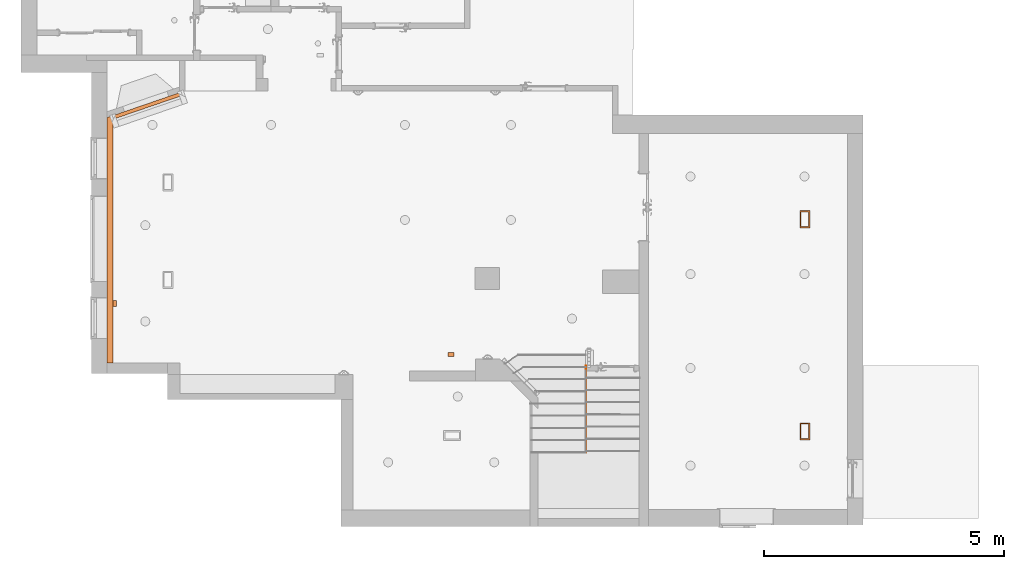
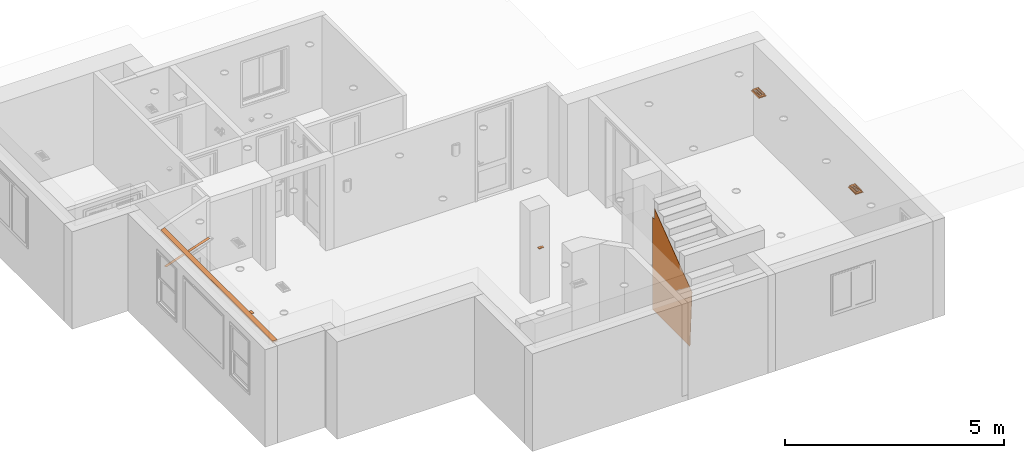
# One storey, part 20 of 24: 7 proxies.
"""IFC2X3 building model written with IfcOpenShell, lengths in inches."""

from ifc_helpers import new_model, entity, si_unit, converted_unit, derived_unit, money_unit, direction, frame, origin_with_axes, place, context, subcontext, project, spatial, open_shell, faceted_brep, surface_model, source, transform, mapped, material, type_object, element, save


model = new_model("IFC2X3")

# Units and contexts
model_context = context("Model", 3, precision=0.000393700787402, world=origin_with_axes(), true_north=direction((0.0, 1.0)))
body_context = subcontext(model_context, "Body", "Model", "MODEL_VIEW")
ifc_project = project(units=[converted_unit("LENGTHUNIT", "INCH", entity("IfcPositiveLengthMeasure", 0.0254), si_unit("LENGTHUNIT", "METRE"), dimensions=[1, 0, 0, 0, 0, 0, 0]), converted_unit("AREAUNIT", "SQUARE_FOOT", entity("IfcPositiveLengthMeasure", 0.09290304), si_unit("AREAUNIT", "SQUARE_METRE"), dimensions=[2, 0, 0, 0, 0, 0, 0]), si_unit("PLANEANGLEUNIT", "RADIAN"), si_unit("SOLIDANGLEUNIT", "STERADIAN"), money_unit("USD"), converted_unit("TIMEUNIT", "Year", entity("IfcTimeMeasure", 31556926.0), si_unit("TIMEUNIT", "SECOND"), dimensions=[0, 0, 1, 0, 0, 0, 0]), si_unit("MASSUNIT", "GRAM", prefix="KILO"), si_unit("THERMODYNAMICTEMPERATUREUNIT", "DEGREE_CELSIUS"), si_unit("LUMINOUSINTENSITYUNIT", "LUMEN"), si_unit("ENERGYUNIT", "JOULE", prefix="MEGA"), derived_unit("THERMALCONDUCTANCEUNIT", [(si_unit("POWERUNIT", "WATT"), 1), (si_unit("LENGTHUNIT", "METRE"), -1), (si_unit("THERMODYNAMICTEMPERATUREUNIT", "KELVIN"), -1)]), derived_unit("SPECIFICHEATCAPACITYUNIT", [(si_unit("ENERGYUNIT", "JOULE"), 1), (si_unit("MASSUNIT", "GRAM", prefix="KILO"), -1), (si_unit("THERMODYNAMICTEMPERATUREUNIT", "KELVIN"), -1)]), derived_unit("MASSDENSITYUNIT", [(si_unit("MASSUNIT", "GRAM", prefix="KILO"), 1), (si_unit("VOLUMEUNIT", "CUBIC_METRE"), -1)])], contexts=[model_context])

# Site, building, storey
site_placement = place(None, origin_with_axes())
site = spatial("IfcSite", under=ifc_project, at=site_placement, Name="Site", CompositionType="ELEMENT")
building_placement = place(site_placement, origin_with_axes())
building = spatial("IfcBuilding", under=site, at=building_placement, Name="Building", CompositionType="ELEMENT")
storey_placement = place(building_placement, origin_with_axes())
storey = spatial("IfcBuildingStorey", under=building, at=storey_placement, Name="First Floor", CompositionType="ELEMENT", Elevation=0.0)

# Proxies
ifc_material = material(Name="Generic - Structural")
building_element_proxy_type_1 = type_object("IfcBuildingElementProxyType", Name="Generic - Structural", PredefinedType="NOTDEFINED")
proxy_1_placement = place(storey_placement, frame((1770.10348178, 155.657628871, 100.787401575), z_axis=(0.0, 0.0, 1.0), x_axis=(1.0, 0.0, 0.0)))
element("IfcBuildingElementProxy", 1, at=proxy_1_placement, inside=storey, type_object=building_element_proxy_type_1, material=ifc_material, Name="MORPH-014", context=body_context, shape_type="Brep", body=[
    faceted_brep([(-1199.91552303, -0.0468543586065, 0.25), (-1199.91552303, -3.0, 0.25), (-1195.0, -3.0, 0.25), (-1195.0, -0.0468543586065, 0.25), (-1199.91552303, -0.0468543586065, 0.0), (-1199.91552303, -3.0, 0.0), (-1195.0, -3.0, 0.0), (-1195.0, -0.0468543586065, 0.0)], [[[0, 1, 2, 3]], [[1, 0, 4]], [[1, 5, 6, 2]], [[2, 6, 7, 3]], [[0, 3, 7]], [[7, 4, 0]], [[4, 5, 1]], [[5, 4, 7, 6]]]),
])
proxy_2_placement = place(storey_placement, frame((683.424629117, 144.90717231, 101.0), z_axis=(0.0, 0.0, 1.0), x_axis=(1.0, 0.0, 0.0)))
element("IfcBuildingElementProxy", 2, at=proxy_2_placement, inside=storey, type_object=building_element_proxy_type_1, material=ifc_material, Name="MO-11", context=body_context, shape_type="Brep", body=[
    faceted_brep([(-0.321336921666, -67.4641869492, -101.0), (-0.321336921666, -71.2466272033, -39.1434267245), (-0.321336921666, -3.99954874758, 11.7410656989), (-0.321336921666, -3.99954874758, 0.0), (-0.321336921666, 0.0, 0.0), (-0.321336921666, 0.0, -101.0), (0.0, -67.4641869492, -101.0), (-0.135171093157, -71.2466272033, -39.1434267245), (0.0, -71.2466272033, -39.1434267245), (-0.135171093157, -3.99954874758, 11.7410656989), (0.0555155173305, -3.99954874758, 11.7410656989), (0.0555155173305, -3.99954874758, 0.0), (0.0555155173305, 0.0, 0.0), (0.0555155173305, 0.0, -101.0), (0.0555155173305, -67.4641869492, -101.0), (0.0555155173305, -71.2466272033, -39.1434267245)], [[[0, 1, 2, 3, 4, 5]], [[1, 0, 6, 7]], [[2, 1, 7, 8, 9]], [[3, 2, 9, 10, 11]], [[4, 3, 11, 12]], [[5, 4, 12, 13]], [[0, 5, 13, 14, 6]], [[7, 6, 14, 15, 8]], [[9, 8, 15, 10]], [[15, 14, 13, 12, 11, 10]]]),
])
proxy_3_placement = place(storey_placement, frame((1498.43375014, 198.674473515, 100.787401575), z_axis=(0.0, 0.0, 1.0), x_axis=(0.0, -1.0, 0.0)))
element("IfcBuildingElementProxy", 3, at=proxy_3_placement, inside=storey, type_object=building_element_proxy_type_1, material=ifc_material, Name="MORPH-014", context=body_context, shape_type="Brep", body=[
    faceted_brep([(0.0657898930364, -1200.04662833, 0.25), (0.0657898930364, -1203.0, 0.25), (5.0, -1203.0, 0.25), (5.0, -1200.04662833, 0.25), (0.0657898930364, -1203.0, 0.0), (5.0, -1203.0, 0.0), (5.0, -1200.04662833, 0.0), (0.0657898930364, -1200.04662833, 0.0)], [[[0, 1, 2, 3]], [[4, 1, 0]], [[1, 4, 5, 2]], [[2, 5, 6, 3]], [[7, 0, 3]], [[7, 4, 0]], [[4, 7, 6, 5]], [[6, 7, 3]]]),
])
proxy_4_placement = place(storey_placement, frame((290.431237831, 147.406704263, 101.0), z_axis=(0.0, 0.0, 1.0), x_axis=(1.0, 0.0, 0.0)))
element("IfcBuildingElementProxy", 4, at=proxy_4_placement, inside=storey, type_object=building_element_proxy_type_1, material=ifc_material, Name="MO-01", context=body_context, shape_type="Brep", body=[
    faceted_brep([(6.7459856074e-06, -0.244277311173, 0.0), (0.00251262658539, 200.999120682, 0.0), (0.00251262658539, 200.999120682, -1.96898590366), (6.7459856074e-06, -0.244277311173, -1.96898590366), (5.00251220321, -0.244285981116, 0.0), (5.00251262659, 202.718736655, 0.0), (5.00251262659, 202.718736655, -1.96898590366), (5.00251220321, -0.244285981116, -1.96898590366)], [[[0, 1, 2, 3]], [[1, 0, 4, 5]], [[2, 1, 5, 6]], [[3, 2, 6, 7]], [[0, 3, 7]], [[4, 0, 7]], [[5, 4, 7, 6]]]),
])
proxy_5_placement = place(storey_placement, frame((1495.80662403, 347.16476816, 59.0000238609), z_axis=(0.0, 0.0, 1.0), x_axis=(1.0, 0.0, 0.0)))
element("IfcBuildingElementProxy", 5, at=proxy_5_placement, inside=storey, type_object=building_element_proxy_type_1, material=ifc_material, Name="MO-09", context=body_context, shape_type="SurfaceModel", body=[
    surface_model("IfcShellBasedSurfaceModel", [(-1200.0, 0.0, 0.0), (-1200.9590181, 2.74044014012, 0.0), (-1144.3510424, 22.1994571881, 0.0), (-1143.38299368, 19.4348917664, 0.0)], [open_shell([[[0, 1, 2, 3]]])]),
])
building_element_proxy_type_2 = type_object("IfcBuildingElementProxyType", Name="Ceiling Grille 25", PredefinedType="NOTDEFINED")
shared_shape = source(origin_with_axes(), body_context, "Body", "SurfaceModel", [
    faceted_brep([(6.98818897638, 4.03543307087, -0.196850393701), (-6.98818897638, 4.03543307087, -0.196850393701), (-6.98818897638, 4.03543307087, 0.0), (6.98818897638, 4.03543307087, 0.0), (6.98818897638, -4.03543307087, -0.196850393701), (-6.98818897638, -4.03543307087, -0.196850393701), (6.00393700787, 3.05118110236, -0.196850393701), (-6.00393700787, 3.05118110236, -0.196850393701), (-6.00393700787, -3.05118110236, -0.196850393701), (6.00393700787, -3.05118110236, -0.196850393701), (-6.98818897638, -4.03543307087, 0.0), (6.98818897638, -4.03543307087, 0.0), (6.00393700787, 3.05118110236, 0.0), (6.00393700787, -3.05118110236, 0.0), (-6.00393700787, -3.05118110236, 0.0), (-6.00393700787, 3.05118110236, 0.0)], [[[0, 1, 2, 3]], [[0, 4, 5, 1], [6, 7, 8, 9]], [[1, 5, 10, 2]], [[3, 2, 10, 11], [12, 13, 14, 15]], [[4, 0, 3, 11]], [[5, 4, 11, 10]], [[7, 6, 12, 15]], [[8, 7, 15, 14]], [[9, 8, 14, 13]], [[6, 9, 13, 12]]]),
    surface_model("IfcShellBasedSurfaceModel", [(-5.96456692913, 2.95275590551, -0.196850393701), (5.96456692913, 2.95275590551, -0.196850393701), (5.96456692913, 2.95275590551, 0.787401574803), (-5.96456692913, 2.95275590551, 0.787401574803)], [open_shell([[[0, 1, 2, 3]]])]),
    surface_model("IfcShellBasedSurfaceModel", [(-5.96456692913, 0.984251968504, -0.196850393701), (5.96456692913, 0.984251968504, -0.196850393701), (5.96456692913, 0.984251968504, 0.787401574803), (-5.96456692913, 0.984251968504, 0.787401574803)], [open_shell([[[0, 1, 2, 3]]])]),
    surface_model("IfcShellBasedSurfaceModel", [(-5.96456692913, -0.984251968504, -0.196850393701), (5.96456692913, -0.984251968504, -0.196850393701), (5.96456692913, -0.984251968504, 0.787401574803), (-5.96456692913, -0.984251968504, 0.787401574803)], [open_shell([[[0, 1, 2, 3]]])]),
    surface_model("IfcShellBasedSurfaceModel", [(-5.96456692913, -2.95275590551, -0.196850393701), (5.96456692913, -2.95275590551, -0.196850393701), (5.96456692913, -2.95275590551, 0.787401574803), (-5.96456692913, -2.95275590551, 0.787401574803)], [open_shell([[[0, 1, 2, 3]]])]),
    surface_model("IfcShellBasedSurfaceModel", [(5.90551181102, -3.01181102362, -0.196850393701), (5.90551181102, 3.01181102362, -0.196850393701), (5.90551181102, 3.01181102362, 0.787401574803), (5.90551181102, -3.01181102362, 0.787401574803)], [open_shell([[[0, 1, 2, 3]]])]),
    surface_model("IfcShellBasedSurfaceModel", [(3.93700787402, -3.01181102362, -0.196850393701), (3.93700787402, 3.01181102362, -0.196850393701), (3.93700787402, 3.01181102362, 0.787401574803), (3.93700787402, -3.01181102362, 0.787401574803)], [open_shell([[[0, 1, 2, 3]]])]),
    surface_model("IfcShellBasedSurfaceModel", [(1.96850393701, -3.01181102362, -0.196850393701), (1.96850393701, 3.01181102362, -0.196850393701), (1.96850393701, 3.01181102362, 0.787401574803), (1.96850393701, -3.01181102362, 0.787401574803)], [open_shell([[[0, 1, 2, 3]]])]),
    surface_model("IfcShellBasedSurfaceModel", [(0.0, -3.01181102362, -0.196850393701), (0.0, 3.01181102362, -0.196850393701), (0.0, 3.01181102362, 0.787401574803), (0.0, -3.01181102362, 0.787401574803)], [open_shell([[[0, 1, 2, 3]]])]),
    surface_model("IfcShellBasedSurfaceModel", [(-1.96850393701, -3.01181102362, -0.196850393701), (-1.96850393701, 3.01181102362, -0.196850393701), (-1.96850393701, 3.01181102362, 0.787401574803), (-1.96850393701, -3.01181102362, 0.787401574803)], [open_shell([[[0, 1, 2, 3]]])]),
    surface_model("IfcShellBasedSurfaceModel", [(-3.93700787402, -3.01181102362, -0.196850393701), (-3.93700787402, 3.01181102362, -0.196850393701), (-3.93700787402, 3.01181102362, 0.787401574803), (-3.93700787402, -3.01181102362, 0.787401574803)], [open_shell([[[0, 1, 2, 3]]])]),
    surface_model("IfcShellBasedSurfaceModel", [(-5.90551181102, -3.01181102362, -0.196850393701), (-5.90551181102, 3.01181102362, -0.196850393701), (-5.90551181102, 3.01181102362, 0.787401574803), (-5.90551181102, -3.01181102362, 0.787401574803)], [open_shell([[[0, 1, 2, 3]]])]),
    surface_model("IfcShellBasedSurfaceModel", [(6.00393700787, -3.05118110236, 0.0), (6.00393700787, 3.05118110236, 0.0), (6.00393700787, 3.05118110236, 1.96850393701), (6.00393700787, -3.05118110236, 1.96850393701), (-6.00393700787, 3.05118110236, 0.0), (-6.00393700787, 3.05118110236, 1.96850393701), (-6.00393700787, -3.05118110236, 0.0), (-6.00393700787, -3.05118110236, 1.96850393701)], [open_shell([[[0, 1, 2, 3]], [[1, 4, 5, 2]], [[6, 0, 3, 7]], [[4, 6, 7, 5]]])]),
])
for number, where, z_axis, x_axis, name in (
    (6, (862.965549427, 265.049467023, 101.0), (0.0, 0.0, 1.0), (0.0, 1.0, 0.0), "FU - 013"),
    (7, (862.965549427, 91.0022229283, 101.0), (0.0, 0.0, 1.0), (0.0, 1.0, 0.0), "FU - 013"),
):
    element("IfcBuildingElementProxy", number, at=place(storey_placement, frame(where, z_axis=z_axis, x_axis=x_axis)), inside=storey, type_object=building_element_proxy_type_2, Name=name, context=body_context, shape_type="MappedRepresentation", body=[
        mapped(shared_shape, transform((0.0, 0.0, 0.0))),
    ])

save(model, "model.ifc")
